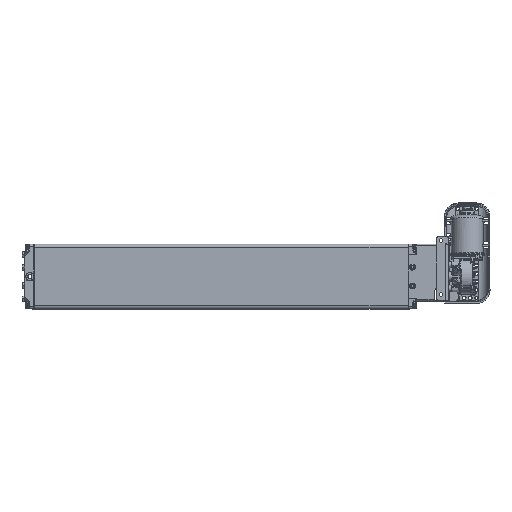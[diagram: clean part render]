
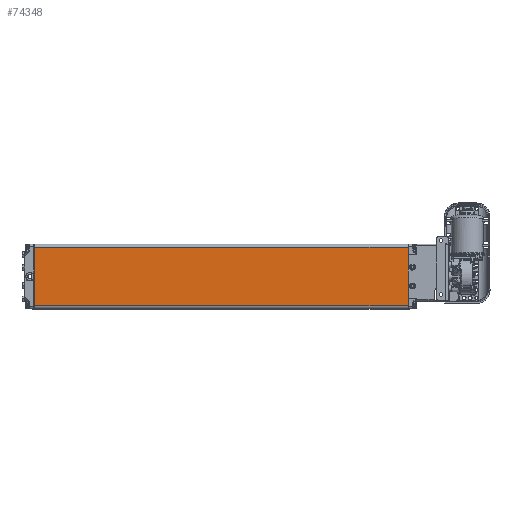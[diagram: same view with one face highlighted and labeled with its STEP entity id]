
A CAD part, top view. The second image highlights one B-rep face of the part: STEP entity #74348.
In plain terms, the highlighted planar face has unit normal (0, 0, 1).
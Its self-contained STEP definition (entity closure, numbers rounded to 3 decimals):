
#7078=LINE('',#125537,#10098);
#7079=LINE('',#125540,#10099);
#7080=LINE('',#125542,#10100);
#7081=LINE('',#125544,#10101);
#10098=VECTOR('',#86744,1000.);
#10099=VECTOR('',#86745,1000.);
#10100=VECTOR('',#86746,1000.);
#10101=VECTOR('',#86747,1000.);
#17794=ORIENTED_EDGE('',*,*,#34835,.T.);
#17795=ORIENTED_EDGE('',*,*,#34836,.T.);
#17796=ORIENTED_EDGE('',*,*,#34837,.T.);
#17797=ORIENTED_EDGE('',*,*,#34838,.T.);
#34835=EDGE_CURVE('',#43581,#43582,#7078,.F.);
#34836=EDGE_CURVE('',#43582,#43583,#7079,.T.);
#34837=EDGE_CURVE('',#43583,#43584,#7080,.T.);
#34838=EDGE_CURVE('',#43584,#43581,#7081,.F.);
#43581=VERTEX_POINT('',#125538);
#43582=VERTEX_POINT('',#125539);
#43583=VERTEX_POINT('',#125541);
#43584=VERTEX_POINT('',#125543);
#51980=EDGE_LOOP('',(#17794,#17795,#17796,#17797));
#56563=FACE_BOUND('',#51980,.T.);
#60304=PLANE('',#78830);
#74348=ADVANCED_FACE('',(#56563),#60304,.T.);
#78830=AXIS2_PLACEMENT_3D('',#125536,#86742,#86743);
#86742=DIRECTION('',(0.,0.,1.));
#86743=DIRECTION('',(1.,0.,0.));
#86744=DIRECTION('',(0.,-1.,0.));
#86745=DIRECTION('',(-1.,0.,0.));
#86746=DIRECTION('',(0.,-1.,0.));
#86747=DIRECTION('',(-1.,0.,0.));
#125536=CARTESIAN_POINT('',(60.,692.5,30.));
#125537=CARTESIAN_POINT('',(54.,692.5,30.));
#125538=CARTESIAN_POINT('',(54.,0.5,30.));
#125539=CARTESIAN_POINT('',(54.,692.,30.));
#125540=CARTESIAN_POINT('',(60.,692.,30.));
#125541=CARTESIAN_POINT('',(-54.,692.,30.));
#125542=CARTESIAN_POINT('',(-54.,692.5,30.));
#125543=CARTESIAN_POINT('',(-54.,0.5,30.));
#125544=CARTESIAN_POINT('',(54.,0.5,30.));
